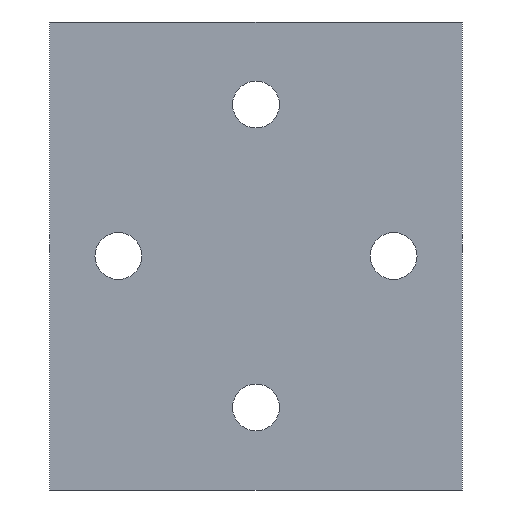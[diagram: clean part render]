
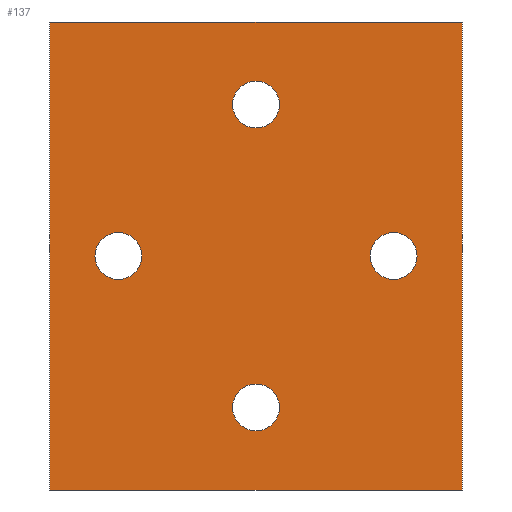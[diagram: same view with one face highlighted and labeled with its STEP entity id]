
A CAD part, front view. The second image highlights one B-rep face of the part: STEP entity #137.
In plain terms, the highlighted planar face has unit normal (0, -1, 0).
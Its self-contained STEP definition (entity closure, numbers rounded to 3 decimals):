
#21 = EDGE_CURVE('',#22,#24,#26,.T.);
#22 = VERTEX_POINT('',#23);
#23 = CARTESIAN_POINT('',(25.,-18.,-17.));
#24 = VERTEX_POINT('',#25);
#25 = CARTESIAN_POINT('',(25.,-18.,17.));
#26 = SURFACE_CURVE('',#27,(#31,#43),.PCURVE_S1.);
#27 = LINE('',#28,#29);
#28 = CARTESIAN_POINT('',(25.,-18.,-17.));
#29 = VECTOR('',#30,1.);
#30 = DIRECTION('',(0.,0.,1.));
#31 = PCURVE('',#32,#37);
#32 = PLANE('',#33);
#33 = AXIS2_PLACEMENT_3D('',#34,#35,#36);
#34 = CARTESIAN_POINT('',(25.,-18.,-17.));
#35 = DIRECTION('',(1.,0.,0.));
#36 = DIRECTION('',(0.,0.,1.));
#37 = DEFINITIONAL_REPRESENTATION('',(#38),#42);
#38 = LINE('',#39,#40);
#39 = CARTESIAN_POINT('',(0.,0.));
#40 = VECTOR('',#41,1.);
#41 = DIRECTION('',(1.,0.));
#42 = ( GEOMETRIC_REPRESENTATION_CONTEXT(2) 
PARAMETRIC_REPRESENTATION_CONTEXT() REPRESENTATION_CONTEXT('2D SPACE',''
  ) );
#43 = PCURVE('',#44,#49);
#44 = PLANE('',#45);
#45 = AXIS2_PLACEMENT_3D('',#46,#47,#48);
#46 = CARTESIAN_POINT('',(25.,-18.,-17.));
#47 = DIRECTION('',(0.,1.,0.));
#48 = DIRECTION('',(0.,0.,1.));
#49 = DEFINITIONAL_REPRESENTATION('',(#50),#54);
#50 = LINE('',#51,#52);
#51 = CARTESIAN_POINT('',(0.,0.));
#52 = VECTOR('',#53,1.);
#53 = DIRECTION('',(1.,0.));
#54 = ( GEOMETRIC_REPRESENTATION_CONTEXT(2) 
PARAMETRIC_REPRESENTATION_CONTEXT() REPRESENTATION_CONTEXT('2D SPACE',''
  ) );
#72 = PLANE('',#73);
#73 = AXIS2_PLACEMENT_3D('',#74,#75,#76);
#74 = CARTESIAN_POINT('',(25.,-18.,-17.));
#75 = DIRECTION('',(0.,0.,1.));
#76 = DIRECTION('',(1.,0.,0.));
#126 = PLANE('',#127);
#127 = AXIS2_PLACEMENT_3D('',#128,#129,#130);
#128 = CARTESIAN_POINT('',(25.,-18.,17.));
#129 = DIRECTION('',(0.,0.,1.));
#130 = DIRECTION('',(1.,0.,0.));
#137 = ADVANCED_FACE('',(#138,#213,#244,#275,#306),#44,.F.);
#138 = FACE_BOUND('',#139,.F.);
#139 = EDGE_LOOP('',(#140,#163,#164,#187));
#140 = ORIENTED_EDGE('',*,*,#141,.F.);
#141 = EDGE_CURVE('',#22,#142,#144,.T.);
#142 = VERTEX_POINT('',#143);
#143 = CARTESIAN_POINT('',(55.,-18.,-17.));
#144 = SURFACE_CURVE('',#145,(#149,#156),.PCURVE_S1.);
#145 = LINE('',#146,#147);
#146 = CARTESIAN_POINT('',(25.,-18.,-17.));
#147 = VECTOR('',#148,1.);
#148 = DIRECTION('',(1.,0.,0.));
#149 = PCURVE('',#44,#150);
#150 = DEFINITIONAL_REPRESENTATION('',(#151),#155);
#151 = LINE('',#152,#153);
#152 = CARTESIAN_POINT('',(0.,0.));
#153 = VECTOR('',#154,1.);
#154 = DIRECTION('',(0.,1.));
#155 = ( GEOMETRIC_REPRESENTATION_CONTEXT(2) 
PARAMETRIC_REPRESENTATION_CONTEXT() REPRESENTATION_CONTEXT('2D SPACE',''
  ) );
#156 = PCURVE('',#72,#157);
#157 = DEFINITIONAL_REPRESENTATION('',(#158),#162);
#158 = LINE('',#159,#160);
#159 = CARTESIAN_POINT('',(0.,0.));
#160 = VECTOR('',#161,1.);
#161 = DIRECTION('',(1.,0.));
#162 = ( GEOMETRIC_REPRESENTATION_CONTEXT(2) 
PARAMETRIC_REPRESENTATION_CONTEXT() REPRESENTATION_CONTEXT('2D SPACE',''
  ) );
#163 = ORIENTED_EDGE('',*,*,#21,.T.);
#164 = ORIENTED_EDGE('',*,*,#165,.T.);
#165 = EDGE_CURVE('',#24,#166,#168,.T.);
#166 = VERTEX_POINT('',#167);
#167 = CARTESIAN_POINT('',(55.,-18.,17.));
#168 = SURFACE_CURVE('',#169,(#173,#180),.PCURVE_S1.);
#169 = LINE('',#170,#171);
#170 = CARTESIAN_POINT('',(25.,-18.,17.));
#171 = VECTOR('',#172,1.);
#172 = DIRECTION('',(1.,0.,0.));
#173 = PCURVE('',#44,#174);
#174 = DEFINITIONAL_REPRESENTATION('',(#175),#179);
#175 = LINE('',#176,#177);
#176 = CARTESIAN_POINT('',(34.,0.));
#177 = VECTOR('',#178,1.);
#178 = DIRECTION('',(0.,1.));
#179 = ( GEOMETRIC_REPRESENTATION_CONTEXT(2) 
PARAMETRIC_REPRESENTATION_CONTEXT() REPRESENTATION_CONTEXT('2D SPACE',''
  ) );
#180 = PCURVE('',#126,#181);
#181 = DEFINITIONAL_REPRESENTATION('',(#182),#186);
#182 = LINE('',#183,#184);
#183 = CARTESIAN_POINT('',(0.,0.));
#184 = VECTOR('',#185,1.);
#185 = DIRECTION('',(1.,0.));
#186 = ( GEOMETRIC_REPRESENTATION_CONTEXT(2) 
PARAMETRIC_REPRESENTATION_CONTEXT() REPRESENTATION_CONTEXT('2D SPACE',''
  ) );
#187 = ORIENTED_EDGE('',*,*,#188,.F.);
#188 = EDGE_CURVE('',#142,#166,#189,.T.);
#189 = SURFACE_CURVE('',#190,(#194,#201),.PCURVE_S1.);
#190 = LINE('',#191,#192);
#191 = CARTESIAN_POINT('',(55.,-18.,-17.));
#192 = VECTOR('',#193,1.);
#193 = DIRECTION('',(0.,0.,1.));
#194 = PCURVE('',#44,#195);
#195 = DEFINITIONAL_REPRESENTATION('',(#196),#200);
#196 = LINE('',#197,#198);
#197 = CARTESIAN_POINT('',(0.,30.));
#198 = VECTOR('',#199,1.);
#199 = DIRECTION('',(1.,0.));
#200 = ( GEOMETRIC_REPRESENTATION_CONTEXT(2) 
PARAMETRIC_REPRESENTATION_CONTEXT() REPRESENTATION_CONTEXT('2D SPACE',''
  ) );
#201 = PCURVE('',#202,#207);
#202 = PLANE('',#203);
#203 = AXIS2_PLACEMENT_3D('',#204,#205,#206);
#204 = CARTESIAN_POINT('',(55.,-18.,-17.));
#205 = DIRECTION('',(1.,0.,0.));
#206 = DIRECTION('',(0.,0.,1.));
#207 = DEFINITIONAL_REPRESENTATION('',(#208),#212);
#208 = LINE('',#209,#210);
#209 = CARTESIAN_POINT('',(0.,0.));
#210 = VECTOR('',#211,1.);
#211 = DIRECTION('',(1.,0.));
#212 = ( GEOMETRIC_REPRESENTATION_CONTEXT(2) 
PARAMETRIC_REPRESENTATION_CONTEXT() REPRESENTATION_CONTEXT('2D SPACE',''
  ) );
#213 = FACE_BOUND('',#214,.F.);
#214 = EDGE_LOOP('',(#215));
#215 = ORIENTED_EDGE('',*,*,#216,.F.);
#216 = EDGE_CURVE('',#217,#217,#219,.T.);
#217 = VERTEX_POINT('',#218);
#218 = CARTESIAN_POINT('',(30.,-18.,1.7));
#219 = SURFACE_CURVE('',#220,(#225,#232),.PCURVE_S1.);
#220 = CIRCLE('',#221,1.7);
#221 = AXIS2_PLACEMENT_3D('',#222,#223,#224);
#222 = CARTESIAN_POINT('',(30.,-18.,0.));
#223 = DIRECTION('',(0.,1.,0.));
#224 = DIRECTION('',(0.,-0.,1.));
#225 = PCURVE('',#44,#226);
#226 = DEFINITIONAL_REPRESENTATION('',(#227),#231);
#227 = CIRCLE('',#228,1.7);
#228 = AXIS2_PLACEMENT_2D('',#229,#230);
#229 = CARTESIAN_POINT('',(17.,5.));
#230 = DIRECTION('',(1.,0.));
#231 = ( GEOMETRIC_REPRESENTATION_CONTEXT(2) 
PARAMETRIC_REPRESENTATION_CONTEXT() REPRESENTATION_CONTEXT('2D SPACE',''
  ) );
#232 = PCURVE('',#233,#238);
#233 = CYLINDRICAL_SURFACE('',#234,1.7);
#234 = AXIS2_PLACEMENT_3D('',#235,#236,#237);
#235 = CARTESIAN_POINT('',(30.,-19.,0.));
#236 = DIRECTION('',(0.,1.,0.));
#237 = DIRECTION('',(0.,-0.,1.));
#238 = DEFINITIONAL_REPRESENTATION('',(#239),#243);
#239 = LINE('',#240,#241);
#240 = CARTESIAN_POINT('',(0.,1.));
#241 = VECTOR('',#242,1.);
#242 = DIRECTION('',(1.,0.));
#243 = ( GEOMETRIC_REPRESENTATION_CONTEXT(2) 
PARAMETRIC_REPRESENTATION_CONTEXT() REPRESENTATION_CONTEXT('2D SPACE',''
  ) );
#244 = FACE_BOUND('',#245,.F.);
#245 = EDGE_LOOP('',(#246));
#246 = ORIENTED_EDGE('',*,*,#247,.F.);
#247 = EDGE_CURVE('',#248,#248,#250,.T.);
#248 = VERTEX_POINT('',#249);
#249 = CARTESIAN_POINT('',(40.,-18.,-9.3));
#250 = SURFACE_CURVE('',#251,(#256,#263),.PCURVE_S1.);
#251 = CIRCLE('',#252,1.7);
#252 = AXIS2_PLACEMENT_3D('',#253,#254,#255);
#253 = CARTESIAN_POINT('',(40.,-18.,-11.));
#254 = DIRECTION('',(0.,1.,0.));
#255 = DIRECTION('',(0.,-0.,1.));
#256 = PCURVE('',#44,#257);
#257 = DEFINITIONAL_REPRESENTATION('',(#258),#262);
#258 = CIRCLE('',#259,1.7);
#259 = AXIS2_PLACEMENT_2D('',#260,#261);
#260 = CARTESIAN_POINT('',(6.,15.));
#261 = DIRECTION('',(1.,0.));
#262 = ( GEOMETRIC_REPRESENTATION_CONTEXT(2) 
PARAMETRIC_REPRESENTATION_CONTEXT() REPRESENTATION_CONTEXT('2D SPACE',''
  ) );
#263 = PCURVE('',#264,#269);
#264 = CYLINDRICAL_SURFACE('',#265,1.7);
#265 = AXIS2_PLACEMENT_3D('',#266,#267,#268);
#266 = CARTESIAN_POINT('',(40.,-19.,-11.));
#267 = DIRECTION('',(0.,1.,0.));
#268 = DIRECTION('',(0.,-0.,1.));
#269 = DEFINITIONAL_REPRESENTATION('',(#270),#274);
#270 = LINE('',#271,#272);
#271 = CARTESIAN_POINT('',(0.,1.));
#272 = VECTOR('',#273,1.);
#273 = DIRECTION('',(1.,0.));
#274 = ( GEOMETRIC_REPRESENTATION_CONTEXT(2) 
PARAMETRIC_REPRESENTATION_CONTEXT() REPRESENTATION_CONTEXT('2D SPACE',''
  ) );
#275 = FACE_BOUND('',#276,.F.);
#276 = EDGE_LOOP('',(#277));
#277 = ORIENTED_EDGE('',*,*,#278,.F.);
#278 = EDGE_CURVE('',#279,#279,#281,.T.);
#279 = VERTEX_POINT('',#280);
#280 = CARTESIAN_POINT('',(50.,-18.,1.7));
#281 = SURFACE_CURVE('',#282,(#287,#294),.PCURVE_S1.);
#282 = CIRCLE('',#283,1.7);
#283 = AXIS2_PLACEMENT_3D('',#284,#285,#286);
#284 = CARTESIAN_POINT('',(50.,-18.,0.));
#285 = DIRECTION('',(0.,1.,0.));
#286 = DIRECTION('',(0.,-0.,1.));
#287 = PCURVE('',#44,#288);
#288 = DEFINITIONAL_REPRESENTATION('',(#289),#293);
#289 = CIRCLE('',#290,1.7);
#290 = AXIS2_PLACEMENT_2D('',#291,#292);
#291 = CARTESIAN_POINT('',(17.,25.));
#292 = DIRECTION('',(1.,0.));
#293 = ( GEOMETRIC_REPRESENTATION_CONTEXT(2) 
PARAMETRIC_REPRESENTATION_CONTEXT() REPRESENTATION_CONTEXT('2D SPACE',''
  ) );
#294 = PCURVE('',#295,#300);
#295 = CYLINDRICAL_SURFACE('',#296,1.7);
#296 = AXIS2_PLACEMENT_3D('',#297,#298,#299);
#297 = CARTESIAN_POINT('',(50.,-19.,0.));
#298 = DIRECTION('',(0.,1.,0.));
#299 = DIRECTION('',(0.,-0.,1.));
#300 = DEFINITIONAL_REPRESENTATION('',(#301),#305);
#301 = LINE('',#302,#303);
#302 = CARTESIAN_POINT('',(0.,1.));
#303 = VECTOR('',#304,1.);
#304 = DIRECTION('',(1.,0.));
#305 = ( GEOMETRIC_REPRESENTATION_CONTEXT(2) 
PARAMETRIC_REPRESENTATION_CONTEXT() REPRESENTATION_CONTEXT('2D SPACE',''
  ) );
#306 = FACE_BOUND('',#307,.F.);
#307 = EDGE_LOOP('',(#308));
#308 = ORIENTED_EDGE('',*,*,#309,.F.);
#309 = EDGE_CURVE('',#310,#310,#312,.T.);
#310 = VERTEX_POINT('',#311);
#311 = CARTESIAN_POINT('',(40.,-18.,12.7));
#312 = SURFACE_CURVE('',#313,(#318,#325),.PCURVE_S1.);
#313 = CIRCLE('',#314,1.7);
#314 = AXIS2_PLACEMENT_3D('',#315,#316,#317);
#315 = CARTESIAN_POINT('',(40.,-18.,11.));
#316 = DIRECTION('',(0.,1.,0.));
#317 = DIRECTION('',(0.,-0.,1.));
#318 = PCURVE('',#44,#319);
#319 = DEFINITIONAL_REPRESENTATION('',(#320),#324);
#320 = CIRCLE('',#321,1.7);
#321 = AXIS2_PLACEMENT_2D('',#322,#323);
#322 = CARTESIAN_POINT('',(28.,15.));
#323 = DIRECTION('',(1.,0.));
#324 = ( GEOMETRIC_REPRESENTATION_CONTEXT(2) 
PARAMETRIC_REPRESENTATION_CONTEXT() REPRESENTATION_CONTEXT('2D SPACE',''
  ) );
#325 = PCURVE('',#326,#331);
#326 = CYLINDRICAL_SURFACE('',#327,1.7);
#327 = AXIS2_PLACEMENT_3D('',#328,#329,#330);
#328 = CARTESIAN_POINT('',(40.,-19.,11.));
#329 = DIRECTION('',(0.,1.,0.));
#330 = DIRECTION('',(0.,-0.,1.));
#331 = DEFINITIONAL_REPRESENTATION('',(#332),#336);
#332 = LINE('',#333,#334);
#333 = CARTESIAN_POINT('',(0.,1.));
#334 = VECTOR('',#335,1.);
#335 = DIRECTION('',(1.,0.));
#336 = ( GEOMETRIC_REPRESENTATION_CONTEXT(2) 
PARAMETRIC_REPRESENTATION_CONTEXT() REPRESENTATION_CONTEXT('2D SPACE',''
  ) );
